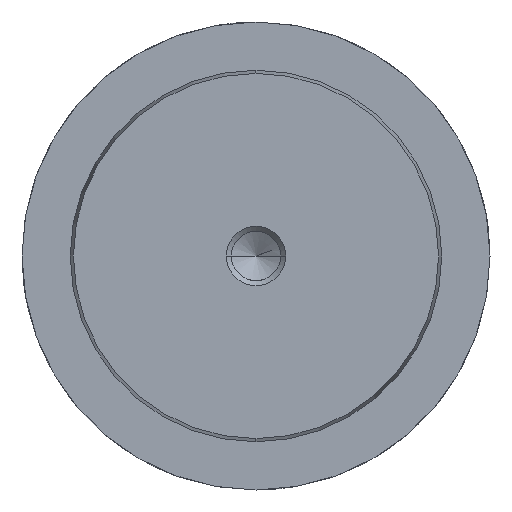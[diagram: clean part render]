
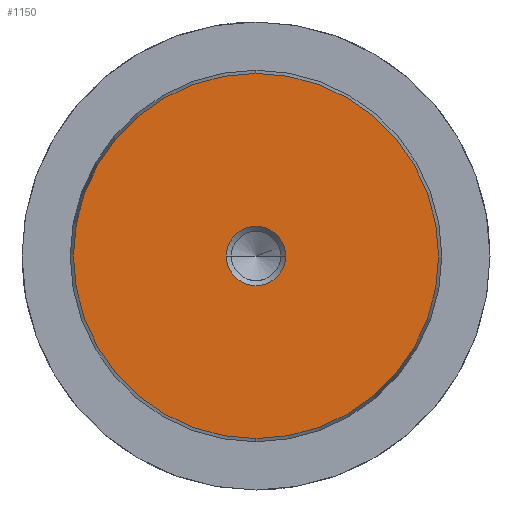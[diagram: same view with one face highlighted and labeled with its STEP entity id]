
A CAD part, left-side view. The second image highlights one B-rep face of the part: STEP entity #1150.
In plain terms, the highlighted planar face has unit normal (-1, 0, 0).
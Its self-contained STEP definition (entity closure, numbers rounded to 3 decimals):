
#1064=CARTESIAN_POINT('Vertex',(0.,0.,-24.578)) ;
#1067=CARTESIAN_POINT('Axis2P3D Location',(0.,0.,0.)) ;
#1071=CARTESIAN_POINT('Vertex',(0.,24.578,0.)) ;
#1074=CARTESIAN_POINT('Axis2P3D Location',(0.,0.,0.)) ;
#1078=CARTESIAN_POINT('Vertex',(0.,0.,24.578)) ;
#1100=CARTESIAN_POINT('Axis2P3D Location',(0.,0.,0.)) ;
#1104=CARTESIAN_POINT('Vertex',(0.,-24.578,0.)) ;
#1107=CARTESIAN_POINT('Axis2P3D Location',(0.,0.,0.)) ;
#1121=CARTESIAN_POINT('Axis2P3D Location',(0.,0.,0.)) ;
#1132=CARTESIAN_POINT('Axis2P3D Location',(0.,0.,0.)) ;
#1136=CARTESIAN_POINT('Vertex',(0.,4.,0.)) ;
#1138=CARTESIAN_POINT('Vertex',(0.,-4.,0.)) ;
#1141=CARTESIAN_POINT('Axis2P3D Location',(0.,0.,0.)) ;
#1068=DIRECTION('Axis2P3D Direction',(1.,0.,-0.)) ;
#1075=DIRECTION('Axis2P3D Direction',(1.,0.,-0.)) ;
#1101=DIRECTION('Axis2P3D Direction',(1.,0.,-0.)) ;
#1108=DIRECTION('Axis2P3D Direction',(1.,0.,-0.)) ;
#1122=DIRECTION('Axis2P3D Direction',(1.,0.,-0.)) ;
#1123=DIRECTION('Axis2P3D XDirection',(-0.,0.,-1.)) ;
#1133=DIRECTION('Axis2P3D Direction',(1.,0.,-0.)) ;
#1142=DIRECTION('Axis2P3D Direction',(1.,0.,-0.)) ;
#1069=AXIS2_PLACEMENT_3D('Circle Axis2P3D',#1067,#1068,$) ;
#1076=AXIS2_PLACEMENT_3D('Circle Axis2P3D',#1074,#1075,$) ;
#1102=AXIS2_PLACEMENT_3D('Circle Axis2P3D',#1100,#1101,$) ;
#1109=AXIS2_PLACEMENT_3D('Circle Axis2P3D',#1107,#1108,$) ;
#1124=AXIS2_PLACEMENT_3D('Plane Axis2P3D',#1121,#1122,#1123) ;
#1134=AXIS2_PLACEMENT_3D('Circle Axis2P3D',#1132,#1133,$) ;
#1143=AXIS2_PLACEMENT_3D('Circle Axis2P3D',#1141,#1142,$) ;
#1127=ORIENTED_EDGE('',*,*,#1073,.F.) ;
#1128=ORIENTED_EDGE('',*,*,#1111,.F.) ;
#1129=ORIENTED_EDGE('',*,*,#1106,.F.) ;
#1130=ORIENTED_EDGE('',*,*,#1080,.F.) ;
#1147=ORIENTED_EDGE('',*,*,#1140,.T.) ;
#1148=ORIENTED_EDGE('',*,*,#1145,.T.) ;
#1149=FACE_BOUND('',#1146,.T.) ;
#1150=ADVANCED_FACE('718-50x280',(#1131,#1149),#1125,.F.) ;
#1070=CIRCLE('generated circle',#1069,24.578) ;
#1077=CIRCLE('generated circle',#1076,24.578) ;
#1103=CIRCLE('generated circle',#1102,24.578) ;
#1110=CIRCLE('generated circle',#1109,24.578) ;
#1135=CIRCLE('generated circle',#1134,4.) ;
#1144=CIRCLE('generated circle',#1143,4.) ;
#1073=EDGE_CURVE('',#1065,#1072,#1070,.T.) ;
#1080=EDGE_CURVE('',#1072,#1079,#1077,.T.) ;
#1106=EDGE_CURVE('',#1079,#1105,#1103,.T.) ;
#1111=EDGE_CURVE('',#1105,#1065,#1110,.T.) ;
#1140=EDGE_CURVE('',#1137,#1139,#1135,.T.) ;
#1145=EDGE_CURVE('',#1139,#1137,#1144,.T.) ;
#1126=EDGE_LOOP('',(#1127,#1128,#1129,#1130)) ;
#1146=EDGE_LOOP('',(#1147,#1148)) ;
#1131=FACE_OUTER_BOUND('',#1126,.T.) ;
#1125=PLANE('Plane',#1124) ;
#1065=VERTEX_POINT('',#1064) ;
#1072=VERTEX_POINT('',#1071) ;
#1079=VERTEX_POINT('',#1078) ;
#1105=VERTEX_POINT('',#1104) ;
#1137=VERTEX_POINT('',#1136) ;
#1139=VERTEX_POINT('',#1138) ;
